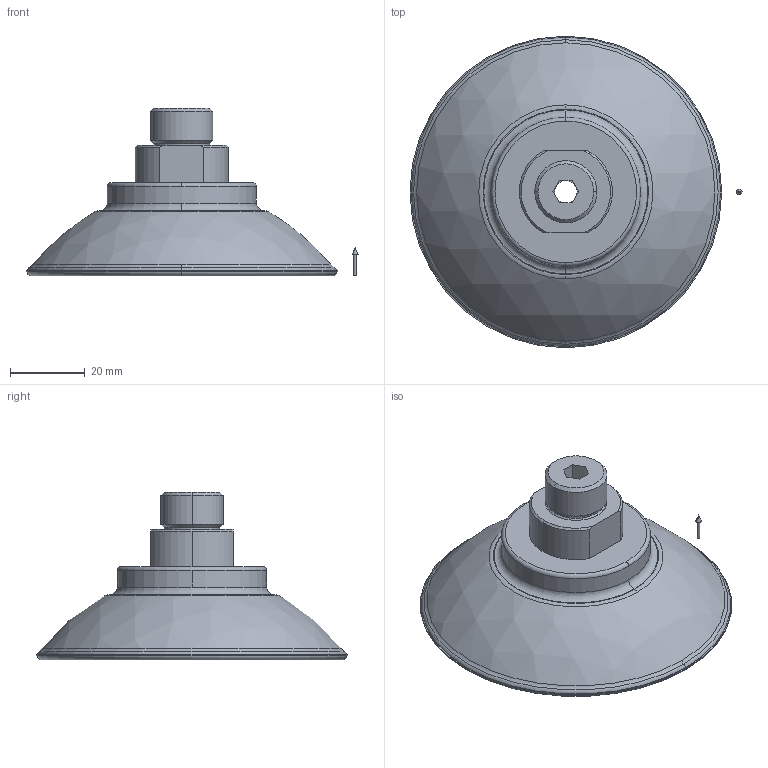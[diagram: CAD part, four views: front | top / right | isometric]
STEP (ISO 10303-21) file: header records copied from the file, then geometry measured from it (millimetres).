
FILE_DESCRIPTION(('STEP AP214'),'1');
FILE_NAME('10_01_01_11115.stp','2020-10-24T00:25:28',('TraceParts'),('TraceParts S.A.'),'Spatial InterOp 3D',' ',' ');
FILE_SCHEMA(('AUTOMOTIVE_DESIGN { 1 0 10303 214 1 1 1 1 }'));
Length unit declared in the file: millimetre
Products named in the file (1): 10_01_01_11115_1
Bounding box: 89.06 x 83.6 x 45 mm (x, y, z)
Volume: 50284.2 mm3; surface area: 18570.4 mm2
Topology: 2 solids, 2 shells, 140 faces, 337 edges, 212 vertices
Faces by surface type: torus 48, cylinder 38, plane 25, cone 24, sphere 5
Entity records: 5308 total; most frequent: DIRECTION 856, CARTESIAN_POINT 697, ORIENTED_EDGE 670, AXIS2_PLACEMENT_3D 383, EDGE_CURVE 335, CIRCLE 241, VERTEX_POINT 212, EDGE_LOOP 155
